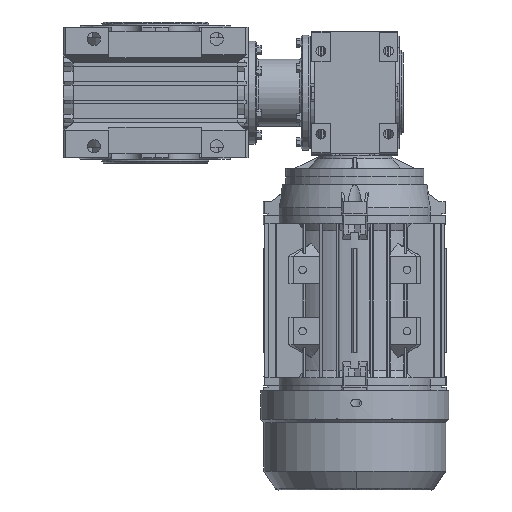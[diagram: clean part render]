
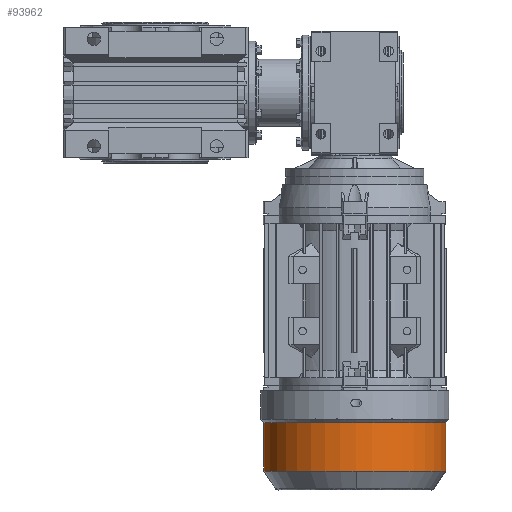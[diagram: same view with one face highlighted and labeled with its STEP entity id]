
A CAD part, front view. The second image highlights one B-rep face of the part: STEP entity #93962.
In plain terms, the highlighted cylindrical face has radius 59.3 mm (diameter 118.6 mm), a partial arc.
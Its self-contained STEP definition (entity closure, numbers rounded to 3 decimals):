
#3892 = VERTEX_POINT ( 'NONE', #63056 ) ;
#3985 = VERTEX_POINT ( 'NONE', #63011 ) ;
#3991 = VERTEX_POINT ( 'NONE', #63008 ) ;
#3997 = VERTEX_POINT ( 'NONE', #63005 ) ;
#4000 = VERTEX_POINT ( 'NONE', #63004 ) ;
#14516 = CYLINDRICAL_SURFACE ( 'NONE', #29436, 59.3 ) ;
#14517 = FACE_OUTER_BOUND ( 'NONE', #82026, .T. ) ;
#21764 = CIRCLE ( 'NONE', #54163, 59.3 ) ;
#21765 = CIRCLE ( 'NONE', #54164, 59.3 ) ;
#28956 = DIRECTION ( 'NONE',  ( 1., 0., 0. ) ) ;
#28957 = DIRECTION ( 'NONE',  ( 0., 0., -1. ) ) ;
#28959 = CARTESIAN_POINT ( 'NONE',  ( 0., 0., 27.905 ) ) ;
#28983 = DIRECTION ( 'NONE',  ( 0., 0., 1. ) ) ;
#28985 = CARTESIAN_POINT ( 'NONE',  ( 59.3, 0., 54. ) ) ;
#28992 = CARTESIAN_POINT ( 'NONE',  ( -59.3, 0., 54. ) ) ;
#29008 = DIRECTION ( 'NONE',  ( 0., 0., 1. ) ) ;
#29436 = AXIS2_PLACEMENT_3D ( 'NONE', #33674, #33675, #33673 ) ;
#30115 = DIRECTION ( 'NONE',  ( 1., 0., 0. ) ) ;
#30116 = DIRECTION ( 'NONE',  ( 0., 0., -1. ) ) ;
#30117 = CARTESIAN_POINT ( 'NONE',  ( 0., 0., 27.905 ) ) ;
#30120 = DIRECTION ( 'NONE',  ( 1., 0., 0. ) ) ;
#30122 = DIRECTION ( 'NONE',  ( 0., 0., 1. ) ) ;
#30124 = CARTESIAN_POINT ( 'NONE',  ( 0., 0., -3.706 ) ) ;
#33673 = DIRECTION ( 'NONE',  ( 1., 0., 0. ) ) ;
#33674 = CARTESIAN_POINT ( 'NONE',  ( 0., 0., 54. ) ) ;
#33675 = DIRECTION ( 'NONE',  ( 0., 0., 1. ) ) ;
#41061 = EDGE_CURVE ( 'NONE', #3892, #3991, #42516, .T. ) ;
#41064 = EDGE_CURVE ( 'NONE', #3985, #3997, #42525, .T. ) ;
#41067 = EDGE_CURVE ( 'NONE', #3997, #4000, #42532, .T. ) ;
#42335 = EDGE_CURVE ( 'NONE', #3892, #3985, #21764, .T. ) ;
#42337 = EDGE_CURVE ( 'NONE', #4000, #3991, #21765, .T. ) ;
#42516 = LINE ( 'NONE', #28992, #42521 ) ;
#42521 = VECTOR ( 'NONE', #29008, 1000. ) ;
#42525 = LINE ( 'NONE', #28985, #42529 ) ;
#42529 = VECTOR ( 'NONE', #28983, 1000. ) ;
#42532 = CIRCLE ( 'NONE', #54110, 59.3 ) ;
#54110 = AXIS2_PLACEMENT_3D ( 'NONE', #28959, #28957, #28956 ) ;
#54163 = AXIS2_PLACEMENT_3D ( 'NONE', #30124, #30122, #30120 ) ;
#54164 = AXIS2_PLACEMENT_3D ( 'NONE', #30117, #30116, #30115 ) ;
#63004 = CARTESIAN_POINT ( 'NONE',  ( 0., -59.3, 27.905 ) ) ;
#63005 = CARTESIAN_POINT ( 'NONE',  ( 59.3, 0., 27.905 ) ) ;
#63008 = CARTESIAN_POINT ( 'NONE',  ( -59.3, 0., 27.905 ) ) ;
#63011 = CARTESIAN_POINT ( 'NONE',  ( 59.3, 0., -3.706 ) ) ;
#63056 = CARTESIAN_POINT ( 'NONE',  ( -59.3, 0., -3.706 ) ) ;
#82026 = EDGE_LOOP ( 'NONE', ( #96643, #96644, #96645, #96646, #96647 ) ) ;
#93962 = ADVANCED_FACE ( 'NONE', ( #14517 ), #14516, .T. ) ;
#96643 = ORIENTED_EDGE ( 'NONE', *, *, #41061, .F. ) ;
#96644 = ORIENTED_EDGE ( 'NONE', *, *, #42335, .T. ) ;
#96645 = ORIENTED_EDGE ( 'NONE', *, *, #41064, .T. ) ;
#96646 = ORIENTED_EDGE ( 'NONE', *, *, #41067, .T. ) ;
#96647 = ORIENTED_EDGE ( 'NONE', *, *, #42337, .T. ) ;
